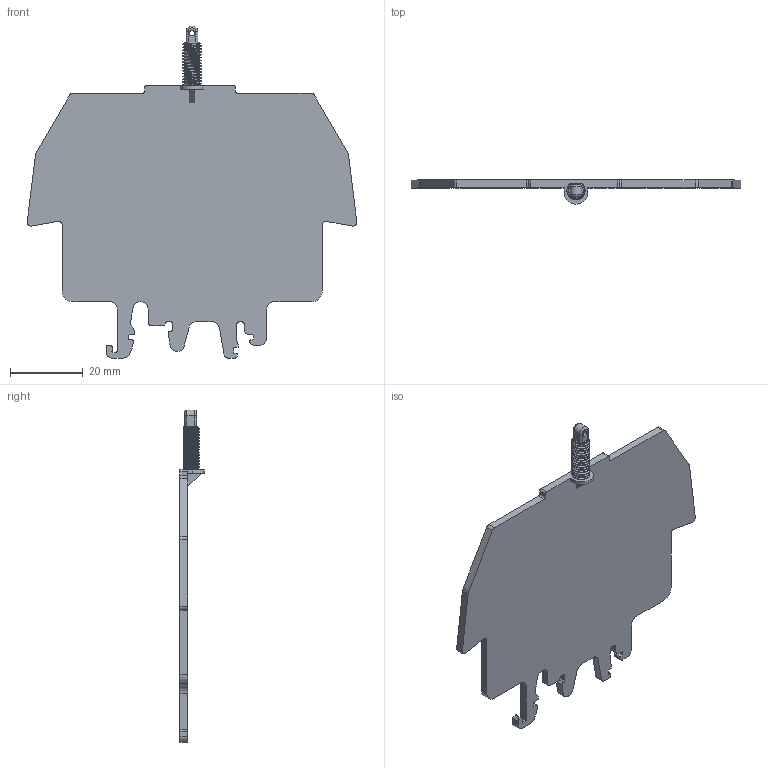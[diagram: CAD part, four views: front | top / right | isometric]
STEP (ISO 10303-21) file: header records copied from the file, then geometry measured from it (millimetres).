
FILE_DESCRIPTION( ('This file contains a STEP AP42 implementation' ,'as created by ZW3D STEP Interface translator.') ,'2;1' );
FILE_NAME( 'PAR 3-TU KS.stp' ,'24 726.114714', (''), ('ZWCAD Software Co.'), 'Version 1.0', 'ZW3D to STEP translator', '' );
FILE_SCHEMA(('AUTOMOTIVE_DESIGN { 1 0 10303 214 1 1 1 1 }'));
Length unit declared in the file: millimetre
Products named in the file (2): 0; RAP
Bounding box: 90.84 x 6.7 x 91.5 mm (x, y, z)
Volume: 11137.5 mm3; surface area: 11087.9 mm2
Topology: 1 solids, 1 shells, 208 faces, 581 edges, 376 vertices
Faces by surface type: plane 87, cylinder 86, bspline 33, torus 2
Full cylindrical faces by diameter (mm): 1.5 x1, 4.2 x14
Entity records: 20437 total; most frequent: CARTESIAN_POINT 15166, ORIENTED_EDGE 1162, DIRECTION 897, EDGE_CURVE 581, VERTEX_POINT 376, AXIS2_PLACEMENT_3D 301, VECTOR 295, LINE 295
